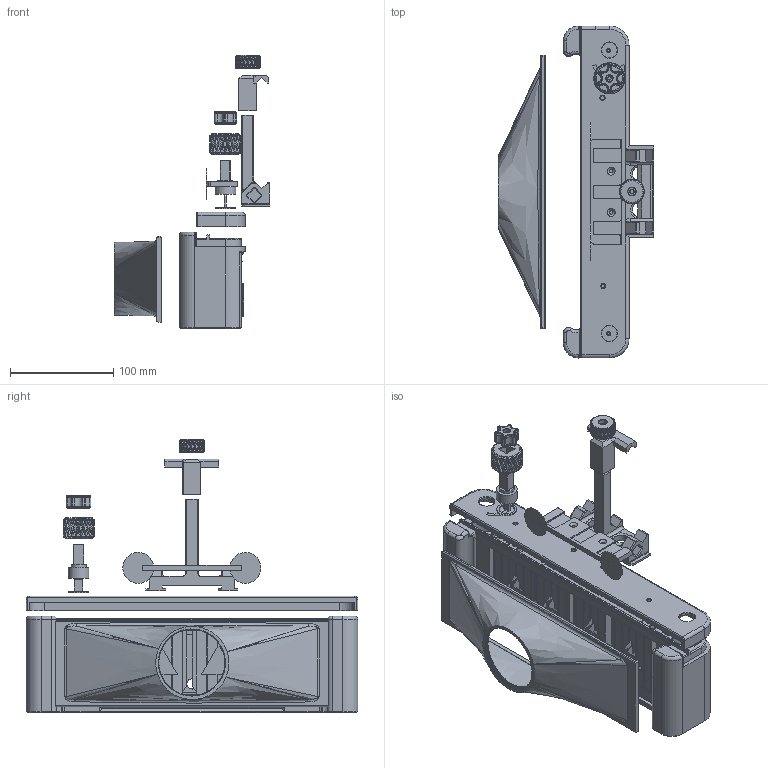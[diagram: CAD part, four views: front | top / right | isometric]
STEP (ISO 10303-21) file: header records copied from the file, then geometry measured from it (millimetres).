
FILE_DESCRIPTION(/* description */ (''),/* implementation_level */ '2;1');
FILE_NAME(/* name */ 'C:/Users/mcjor/3D Objects/6x17 Camera/6x24/v2/6x24 v2 complete.stp',/* time_stamp */ '2023-04-24T11:10:22+02:00',/* author */ (''),/* organization */ (''),/* preprocessor_version */ 'ST-DEVELOPER v15.2',/* originating_system */ 'Autodesk Translator Framework v2.0.0.5431',/* authorisation */ '');
FILE_SCHEMA (('AUTOMOTIVE_DESIGN { 1 0 10303 214 3 1 1 }'));
Products named in the file (1): 6x24 v3
Bounding box: 150.64 x 322 x 265.05 mm (x, y, z)
Volume: 819329.7 mm3; surface area: 435627.6 mm2
Topology: 16 solids, 16 shells, 2717 faces, 7324 edges, 4653 vertices
Faces by surface type: plane 1821, cylinder 323, bspline 274, torus 174, cone 118, sphere 7
Full cylindrical faces by diameter (mm): 1 x28, 3.3 x2, 3.4 x1, 3.5 x3, 3.6 x1, 3.8 x1, 4 x2, 4.039 x3, 4.6 x3, 6.4 x1, 7.7 x1, 10 x1, 14 x3, 14.5 x1, 15 x2, 15.1 x1, 19.2 x1, 20 x1, 21.2 x2, 27.15 x2
Entity records: 96520 total; most frequent: CARTESIAN_POINT 31094, ORIENTED_EDGE 14404, DIRECTION 12248, EDGE_CURVE 7202, LINE 4730, VECTOR 4730, VERTEX_POINT 4636, AXIS2_PLACEMENT_3D 3759
